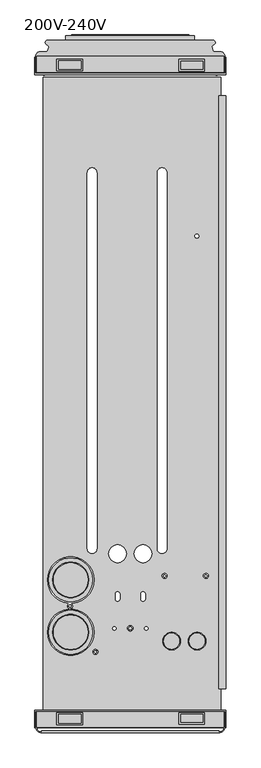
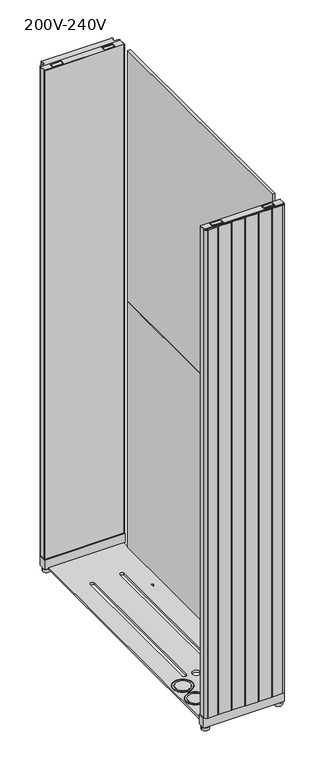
"""IFC4 building model written with IfcOpenShell, lengths in millimetres: proxy geometry, BIM_Model_for_ACRC301H-AC-Close_Coupled-Schneider_Electric-Chilled_Water-InRow_RC_301H-(208-230)V : 200V-240V."""

from ifc_helpers import new_model, si_unit, point, frame, frame_2d, origin, place, context, project, spatial, polyline, circle_curve, trimmed, segment, composite_curve, outline, extrude, source, transform, mapped, element, save


def proxy_200v_240v_be027739(model_context):
    return source(origin(), model_context, "Body", "SweptSolid", [
        extrude(outline(polyline([(142.2494993, 481.2304637), (142.2494993, -536.3846566), (-136.6898813, -536.3846566), (-136.6898813, 481.2304637), (142.2494993, 481.2304637)]), holes=[composite_curve([segment(trimmed(circle_curve(frame_2d((-93.7, -389.1530054)), 36.5), [point((-130.2, -389.1530054))], [point((-57.2, -389.1530054))], True, "CARTESIAN"), True, "CONTINUOUS"), segment(trimmed(circle_curve(frame_2d((-93.7, -389.1530054)), 36.5), [point((-57.2, -389.1530054))], [point((-130.2, -389.1530054))], True, "CARTESIAN"), True, "CONTINUOUS")], self_intersect=False), composite_curve([segment(trimmed(circle_curve(frame_2d((65.0, -403.1560054)), 13.8811), [point((51.1189, -403.1560054))], [point((78.8811, -403.1560054))], True, "CARTESIAN"), True, "CONTINUOUS"), segment(trimmed(circle_curve(frame_2d((65.0, -403.1560054)), 13.8811), [point((78.8811, -403.1560054))], [point((51.1189, -403.1560054))], True, "CARTESIAN"), True, "CONTINUOUS")], self_intersect=False), composite_curve([segment(trimmed(circle_curve(frame_2d((105.0, -403.1560054)), 13.8811), [point((91.1189, -403.1560054))], [point((118.8811, -403.1560054))], True, "CARTESIAN"), True, "CONTINUOUS"), segment(trimmed(circle_curve(frame_2d((105.0, -403.1560054)), 13.8811), [point((118.8811, -403.1560054))], [point((91.1189, -403.1560054))], True, "CARTESIAN"), True, "CONTINUOUS")], self_intersect=False), composite_curve([segment(trimmed(circle_curve(frame_2d((-93.7, -307.1530054)), 36.5), [point((-130.2, -307.1530054))], [point((-57.2, -307.1530054))], True, "CARTESIAN"), True, "CONTINUOUS"), segment(trimmed(circle_curve(frame_2d((-93.7, -307.1530054)), 36.5), [point((-57.2, -307.1530054))], [point((-130.2, -307.1530054))], True, "CARTESIAN"), True, "CONTINUOUS")], self_intersect=False), composite_curve([segment(polyline([(-23.5, -329.1560054), (-23.5, -337.1560054)]), True, "CONTINUOUS"), segment(trimmed(circle_curve(frame_2d((-20.0, -337.1560054)), 3.5), [point((-23.5, -337.1560054))], [point((-16.5, -337.1560054))], True, "CARTESIAN"), True, "CONTINUOUS"), segment(polyline([(-16.5, -337.1560054), (-16.5, -329.1560054)]), True, "CONTINUOUS"), segment(trimmed(circle_curve(frame_2d((-20.0, -329.1560054)), 3.5), [point((-16.5, -329.1560054))], [point((-23.5, -329.1560054))], True, "CARTESIAN"), True, "CONTINUOUS")], self_intersect=False), composite_curve([segment(polyline([(16.5, -329.1560054), (16.5, -337.1560054)]), True, "CONTINUOUS"), segment(trimmed(circle_curve(frame_2d((20.0, -337.1560054)), 3.5), [point((16.5, -337.1560054))], [point((23.5, -337.1560054))], True, "CARTESIAN"), True, "CONTINUOUS"), segment(polyline([(23.5, -337.1560054), (23.5, -329.1560054)]), True, "CONTINUOUS"), segment(trimmed(circle_curve(frame_2d((20.0, -329.1560054)), 3.5), [point((23.5, -329.1560054))], [point((16.5, -329.1560054))], True, "CARTESIAN"), True, "CONTINUOUS")], self_intersect=False), composite_curve([segment(polyline([(42.4501656, 331.8439946), (42.4501656, -258.1560054)]), True, "CONTINUOUS"), segment(trimmed(circle_curve(frame_2d((50.0, -258.1560054)), 7.5498344), [point((42.4501656, -258.1560054))], [point((57.5498344, -258.1560054))], True, "CARTESIAN"), True, "CONTINUOUS"), segment(polyline([(57.5498344, -258.1560054), (57.5498344, 331.8439946)]), True, "CONTINUOUS"), segment(trimmed(circle_curve(frame_2d((50.0, 331.8439946)), 7.5498344), [point((57.5498344, 331.8439946))], [point((42.4501656, 331.8439946))], True, "CARTESIAN"), True, "CONTINUOUS")], self_intersect=False), composite_curve([segment(trimmed(circle_curve(frame_2d((-60.0, -258.1560054)), 7.5498344), [point((-67.5498344, -258.1560054))], [point((-52.4501656, -258.1560054))], True, "CARTESIAN"), True, "CONTINUOUS"), segment(polyline([(-52.4501656, -258.1560054), (-52.4501656, 331.8439946)]), True, "CONTINUOUS"), segment(trimmed(circle_curve(frame_2d((-60.0, 331.8439946)), 7.5498344), [point((-52.4501656, 331.8439946))], [point((-67.5498344, 331.8439946))], True, "CARTESIAN"), True, "CONTINUOUS"), segment(polyline([(-67.5498344, 331.8439946), (-67.5498344, -258.1560054)]), True, "CONTINUOUS")], self_intersect=False), composite_curve([segment(trimmed(circle_curve(frame_2d((-20.0, -266.1560054)), 13.9), [point((-33.9, -266.1560054))], [point((-6.1, -266.1560054))], True, "CARTESIAN"), True, "CONTINUOUS"), segment(trimmed(circle_curve(frame_2d((-20.0, -266.1560054)), 13.9), [point((-6.1, -266.1560054))], [point((-33.9, -266.1560054))], True, "CARTESIAN"), True, "CONTINUOUS")], self_intersect=False), composite_curve([segment(trimmed(circle_curve(frame_2d((20.0, -266.1560054)), 13.9), [point((6.1, -266.1560054))], [point((33.9, -266.1560054))], True, "CARTESIAN"), True, "CONTINUOUS"), segment(trimmed(circle_curve(frame_2d((20.0, -266.1560054)), 13.9), [point((33.9, -266.1560054))], [point((6.1, -266.1560054))], True, "CARTESIAN"), True, "CONTINUOUS")], self_intersect=False), composite_curve([segment(trimmed(circle_curve(frame_2d((0.0, -383.1560054)), 4.35), [point((-4.35, -383.1560054))], [point((4.35, -383.1560054))], True, "CARTESIAN"), True, "CONTINUOUS"), segment(trimmed(circle_curve(frame_2d((0.0, -383.1560054)), 4.35), [point((4.35, -383.1560054))], [point((-4.35, -383.1560054))], True, "CARTESIAN"), True, "CONTINUOUS")], self_intersect=False), composite_curve([segment(trimmed(circle_curve(frame_2d((25.0, -383.1560054)), 2.664701), [point((22.335299, -383.1560054))], [point((27.664701, -383.1560054))], True, "CARTESIAN"), True, "CONTINUOUS"), segment(trimmed(circle_curve(frame_2d((25.0, -383.1560054)), 2.664701), [point((27.664701, -383.1560054))], [point((22.335299, -383.1560054))], True, "CARTESIAN"), True, "CONTINUOUS")], self_intersect=False), composite_curve([segment(trimmed(circle_curve(frame_2d((-25.0, -383.1560054)), 2.664701), [point((-27.664701, -383.1560054))], [point((-22.335299, -383.1560054))], True, "CARTESIAN"), True, "CONTINUOUS"), segment(trimmed(circle_curve(frame_2d((-25.0, -383.1560054)), 2.664701), [point((-22.335299, -383.1560054))], [point((-27.664701, -383.1560054))], True, "CARTESIAN"), True, "CONTINUOUS")], self_intersect=False), composite_curve([segment(trimmed(circle_curve(frame_2d((-54.7, -420.1530054)), 3.95), [point((-58.65, -420.1530054))], [point((-50.75, -420.1530054))], True, "CARTESIAN"), True, "CONTINUOUS"), segment(trimmed(circle_curve(frame_2d((-54.7, -420.1530054)), 3.95), [point((-50.75, -420.1530054))], [point((-58.65, -420.1530054))], True, "CARTESIAN"), True, "CONTINUOUS")], self_intersect=False), composite_curve([segment(trimmed(circle_curve(frame_2d((118.82, -300.9660054)), 3.95), [point((114.87, -300.9660054))], [point((122.77, -300.9660054))], True, "CARTESIAN"), True, "CONTINUOUS"), segment(trimmed(circle_curve(frame_2d((118.82, -300.9660054)), 3.95), [point((122.77, -300.9660054))], [point((114.87, -300.9660054))], True, "CARTESIAN"), True, "CONTINUOUS")], self_intersect=False), composite_curve([segment(trimmed(circle_curve(frame_2d((53.82, -300.9660054)), 3.95), [point((49.87, -300.9660054))], [point((57.77, -300.9660054))], True, "CARTESIAN"), True, "CONTINUOUS"), segment(trimmed(circle_curve(frame_2d((53.82, -300.9660054)), 3.95), [point((57.77, -300.9660054))], [point((49.87, -300.9660054))], True, "CARTESIAN"), True, "CONTINUOUS")], self_intersect=False), composite_curve([segment(trimmed(circle_curve(frame_2d((104.6730485, 232.1853709)), 3.0), [point((101.6730485, 232.1853709))], [point((107.6730485, 232.1853709))], True, "CARTESIAN"), True, "CONTINUOUS"), segment(trimmed(circle_curve(frame_2d((104.6730485, 232.1853709)), 3.0), [point((107.6730485, 232.1853709))], [point((101.6730485, 232.1853709))], True, "CARTESIAN"), True, "CONTINUOUS")], self_intersect=False), composite_curve([segment(trimmed(circle_curve(frame_2d((-94.7, -348.1530054)), 3.95), [point((-98.65, -348.1530054))], [point((-90.75, -348.1530054))], True, "CARTESIAN"), True, "CONTINUOUS"), segment(trimmed(circle_curve(frame_2d((-94.7, -348.1530054)), 3.95), [point((-90.75, -348.1530054))], [point((-98.65, -348.1530054))], True, "CARTESIAN"), True, "CONTINUOUS")], self_intersect=False)]), frame((0.0, 0.0, 35.0), z_axis=(0.0, 0.0, 1.0), x_axis=(1.0, 0.0, 0.0)), (0.0, 0.0, 1.0), 7.0),
        extrude(outline(composite_curve([segment(trimmed(circle_curve(frame_2d((-93.7, -389.1530054)), 34.5), [point((-128.2, -389.1530054))], [point((-59.2, -389.1530054))], False, "CARTESIAN"), True, "CONTINUOUS"), segment(trimmed(circle_curve(frame_2d((-93.7, -389.1530054)), 34.5), [point((-59.2, -389.1530054))], [point((-128.2, -389.1530054))], False, "CARTESIAN"), True, "CONTINUOUS")], self_intersect=False), holes=[composite_curve([segment(trimmed(circle_curve(frame_2d((-93.7, -389.1530054)), 28.0), [point((-121.7, -389.1530054))], [point((-65.7, -389.1530054))], True, "CARTESIAN"), True, "CONTINUOUS"), segment(trimmed(circle_curve(frame_2d((-93.7, -389.1530054)), 28.0), [point((-65.7, -389.1530054))], [point((-121.7, -389.1530054))], True, "CARTESIAN"), True, "CONTINUOUS")], self_intersect=False)]), frame((0.0, 0.0, 35.0), z_axis=(0.0, 0.0, 1.0), x_axis=(1.0, 0.0, 0.0)), (0.0, 0.0, 1.0), 7.0),
        extrude(outline(composite_curve([segment(trimmed(circle_curve(frame_2d((-93.7, -389.1530054)), 27.0), [point((-120.7, -389.1530054))], [point((-66.7, -389.1530054))], False, "CARTESIAN"), True, "CONTINUOUS"), segment(trimmed(circle_curve(frame_2d((-93.7, -389.1530054)), 27.0), [point((-66.7, -389.1530054))], [point((-120.7, -389.1530054))], False, "CARTESIAN"), True, "CONTINUOUS")], self_intersect=False)), frame((0.0, 0.0, 35.0), z_axis=(0.0, 0.0, 1.0), x_axis=(1.0, 0.0, 0.0)), (0.0, 0.0, 1.0), 7.0),
        extrude(outline(composite_curve([segment(trimmed(circle_curve(frame_2d((65.0, -403.1560054)), 12.6111), [point((52.3889, -403.1560054))], [point((77.6111, -403.1560054))], False, "CARTESIAN"), True, "CONTINUOUS"), segment(trimmed(circle_curve(frame_2d((65.0, -403.1560054)), 12.6111), [point((77.6111, -403.1560054))], [point((52.3889, -403.1560054))], False, "CARTESIAN"), True, "CONTINUOUS")], self_intersect=False)), frame((0.0, 0.0, 35.0), z_axis=(0.0, 0.0, 1.0), x_axis=(1.0, 0.0, 0.0)), (0.0, 0.0, 1.0), 7.0),
        extrude(outline(composite_curve([segment(trimmed(circle_curve(frame_2d((105.0, -403.1560054)), 12.6111), [point((92.3889, -403.1560054))], [point((117.6111, -403.1560054))], False, "CARTESIAN"), True, "CONTINUOUS"), segment(trimmed(circle_curve(frame_2d((105.0, -403.1560054)), 12.6111), [point((117.6111, -403.1560054))], [point((92.3889, -403.1560054))], False, "CARTESIAN"), True, "CONTINUOUS")], self_intersect=False)), frame((0.0, 0.0, 35.0), z_axis=(0.0, 0.0, 1.0), x_axis=(1.0, 0.0, 0.0)), (0.0, 0.0, 1.0), 7.0),
        extrude(outline(composite_curve([segment(trimmed(circle_curve(frame_2d((-93.7, -307.1530054)), 34.5), [point((-128.2, -307.1530054))], [point((-59.2, -307.1530054))], False, "CARTESIAN"), True, "CONTINUOUS"), segment(trimmed(circle_curve(frame_2d((-93.7, -307.1530054)), 34.5), [point((-59.2, -307.1530054))], [point((-128.2, -307.1530054))], False, "CARTESIAN"), True, "CONTINUOUS")], self_intersect=False), holes=[composite_curve([segment(trimmed(circle_curve(frame_2d((-93.7, -307.1530054)), 28.0), [point((-121.7, -307.1530054))], [point((-65.7, -307.1530054))], True, "CARTESIAN"), True, "CONTINUOUS"), segment(trimmed(circle_curve(frame_2d((-93.7, -307.1530054)), 28.0), [point((-65.7, -307.1530054))], [point((-121.7, -307.1530054))], True, "CARTESIAN"), True, "CONTINUOUS")], self_intersect=False)]), frame((0.0, 0.0, 35.0), z_axis=(0.0, 0.0, 1.0), x_axis=(1.0, 0.0, 0.0)), (0.0, 0.0, 1.0), 7.0),
        extrude(outline(composite_curve([segment(trimmed(circle_curve(frame_2d((-93.7, -307.1530054)), 27.0), [point((-120.7, -307.1530054))], [point((-66.7, -307.1530054))], False, "CARTESIAN"), True, "CONTINUOUS"), segment(trimmed(circle_curve(frame_2d((-93.7, -307.1530054)), 27.0), [point((-66.7, -307.1530054))], [point((-120.7, -307.1530054))], False, "CARTESIAN"), True, "CONTINUOUS")], self_intersect=False)), frame((0.0, 0.0, 35.0), z_axis=(0.0, 0.0, 1.0), x_axis=(1.0, 0.0, 0.0)), (0.0, 0.0, 1.0), 7.0),
        extrude(outline(composite_curve([segment(trimmed(circle_curve(frame_2d((0.0, -383.1560054)), 2.5), [point((-2.5, -383.1560054))], [point((2.5, -383.1560054))], False, "CARTESIAN"), True, "CONTINUOUS"), segment(trimmed(circle_curve(frame_2d((0.0, -383.1560054)), 2.5), [point((2.5, -383.1560054))], [point((-2.5, -383.1560054))], False, "CARTESIAN"), True, "CONTINUOUS")], self_intersect=False)), frame((0.0, 0.0, 35.0), z_axis=(0.0, 0.0, 1.0), x_axis=(1.0, 0.0, 0.0)), (0.0, 0.0, 1.0), 7.0),
        extrude(outline(composite_curve([segment(trimmed(circle_curve(frame_2d((-54.7, -420.1530054)), 2.0), [point((-56.7, -420.1530054))], [point((-52.7, -420.1530054))], False, "CARTESIAN"), True, "CONTINUOUS"), segment(trimmed(circle_curve(frame_2d((-54.7, -420.1530054)), 2.0), [point((-52.7, -420.1530054))], [point((-56.7, -420.1530054))], False, "CARTESIAN"), True, "CONTINUOUS")], self_intersect=False)), frame((0.0, 0.0, 35.0), z_axis=(0.0, 0.0, 1.0), x_axis=(1.0, 0.0, 0.0)), (0.0, 0.0, 1.0), 7.0),
        extrude(outline(composite_curve([segment(trimmed(circle_curve(frame_2d((118.82, -300.9660054)), 2.0), [point((116.82, -300.9660054))], [point((120.82, -300.9660054))], False, "CARTESIAN"), True, "CONTINUOUS"), segment(trimmed(circle_curve(frame_2d((118.82, -300.9660054)), 2.0), [point((120.82, -300.9660054))], [point((116.82, -300.9660054))], False, "CARTESIAN"), True, "CONTINUOUS")], self_intersect=False)), frame((0.0, 0.0, 35.0), z_axis=(0.0, 0.0, 1.0), x_axis=(1.0, 0.0, 0.0)), (0.0, 0.0, 1.0), 7.0),
        extrude(outline(composite_curve([segment(trimmed(circle_curve(frame_2d((53.82, -300.9660054)), 2.0), [point((51.82, -300.9660054))], [point((55.82, -300.9660054))], False, "CARTESIAN"), True, "CONTINUOUS"), segment(trimmed(circle_curve(frame_2d((53.82, -300.9660054)), 2.0), [point((55.82, -300.9660054))], [point((51.82, -300.9660054))], False, "CARTESIAN"), True, "CONTINUOUS")], self_intersect=False)), frame((0.0, 0.0, 35.0), z_axis=(0.0, 0.0, 1.0), x_axis=(1.0, 0.0, 0.0)), (0.0, 0.0, 1.0), 7.0),
        extrude(outline(composite_curve([segment(trimmed(circle_curve(frame_2d((-94.7, -348.1530054)), 2.0), [point((-96.7, -348.1530054))], [point((-92.7, -348.1530054))], False, "CARTESIAN"), True, "CONTINUOUS"), segment(trimmed(circle_curve(frame_2d((-94.7, -348.1530054)), 2.0), [point((-92.7, -348.1530054))], [point((-96.7, -348.1530054))], False, "CARTESIAN"), True, "CONTINUOUS")], self_intersect=False)), frame((0.0, 0.0, 35.0), z_axis=(0.0, 0.0, 1.0), x_axis=(1.0, 0.0, 0.0)), (0.0, 0.0, 1.0), 7.0),
        extrude(outline(polyline([(92.0038609, 545.8500182), (-92.0036993, 545.8500182), (-92.0036993, 547.4999946), (92.0038609, 547.4999946), (92.0038609, 545.8500182)])), frame((0.0, 0.0, 1609.1384634), z_axis=(0.0, 0.0, 1.0), x_axis=(1.0, 0.0, 0.0)), (0.0, 0.0, 1.0), 84.0986283),
        extrude(outline(polyline([(100.6960411, 537.2923638), (-101.4999738, 537.2923638), (-101.4999738, 545.8500182), (100.6960411, 545.8500182), (100.6960411, 537.2923638)])), frame((0.0, 0.0, 1595.0), z_axis=(0.0, 0.0, 1.0), x_axis=(1.0, 0.0, 0.0)), (0.0, 0.0, 1.0), 111.0),
        extrude(outline(polyline([(-150.0, -511.6535774), (150.0, -511.6535774), (150.0, -538.7500054), (-150.0, -538.7500054), (-150.0, -511.6535774)])), frame((0.0, 0.0, 36.1092195), z_axis=(0.0, 0.0, 1.0), x_axis=(1.0, 0.0, 0.0)), (0.0, 0.0, 1.0), 37.8907805),
        extrude(outline(composite_curve([segment(trimmed(circle_curve(frame_2d((135.9887149, -524.0986273)), 5.0), [point((140.9887149, -524.0986273))], [point((130.9887149, -524.0986273))], False, "CARTESIAN"), True, "CONTINUOUS"), segment(trimmed(circle_curve(frame_2d((135.9887149, -524.0986273)), 5.0), [point((130.9887149, -524.0986273))], [point((140.9887149, -524.0986273))], False, "CARTESIAN"), True, "CONTINUOUS")], self_intersect=False)), frame((0.0, 0.0, 32.1019422), z_axis=(0.0, 0.0, 1.0), x_axis=(1.0, 0.0, 0.0)), (0.0, 0.0, 1.0), 10.4776725),
        extrude(outline(composite_curve([segment(trimmed(circle_curve(frame_2d((135.7422715, -524.7977296)), 13.7438765), [point((149.4861481, -524.7977296))], [point((121.998395, -524.7977296))], False, "CARTESIAN"), True, "CONTINUOUS"), segment(trimmed(circle_curve(frame_2d((135.7422715, -524.7977296)), 13.7438765), [point((121.998395, -524.7977296))], [point((149.4861481, -524.7977296))], False, "CARTESIAN"), True, "CONTINUOUS")], self_intersect=False)), frame((0.0, 0.0, 21.4769368), z_axis=(0.0, 0.0, 1.0), x_axis=(1.0, 0.0, 0.0)), (0.0, 0.0, 1.0), 11.9250061),
        extrude(outline(composite_curve([segment(trimmed(circle_curve(frame_2d((-135.9887149, -524.0986273)), 5.0), [point((-140.9887149, -524.0986273))], [point((-130.9887149, -524.0986273))], False, "CARTESIAN"), True, "CONTINUOUS"), segment(trimmed(circle_curve(frame_2d((-135.9887149, -524.0986273)), 5.0), [point((-130.9887149, -524.0986273))], [point((-140.9887149, -524.0986273))], False, "CARTESIAN"), True, "CONTINUOUS")], self_intersect=False)), frame((0.0, 0.0, 32.1019422), z_axis=(0.0, 0.0, 1.0), x_axis=(1.0, 0.0, 0.0)), (0.0, 0.0, 1.0), 10.4776725),
        extrude(outline(composite_curve([segment(trimmed(circle_curve(frame_2d((-135.7422715, -524.7977296)), 13.7438765), [point((-149.4861481, -524.7977296))], [point((-121.998395, -524.7977296))], False, "CARTESIAN"), True, "CONTINUOUS"), segment(trimmed(circle_curve(frame_2d((-135.7422715, -524.7977296)), 13.7438765), [point((-121.998395, -524.7977296))], [point((-149.4861481, -524.7977296))], False, "CARTESIAN"), True, "CONTINUOUS")], self_intersect=False)), frame((0.0, 0.0, 21.4769368), z_axis=(0.0, 0.0, 1.0), x_axis=(1.0, 0.0, 0.0)), (0.0, 0.0, 1.0), 11.9250061),
        extrude(outline(composite_curve([segment(trimmed(circle_curve(frame_2d((135.9887149, 497.8486165)), 5.0), [point((140.9887149, 497.8486165))], [point((130.9887149, 497.8486165))], False, "CARTESIAN"), True, "CONTINUOUS"), segment(trimmed(circle_curve(frame_2d((135.9887149, 497.8486165)), 5.0), [point((130.9887149, 497.8486165))], [point((140.9887149, 497.8486165))], False, "CARTESIAN"), True, "CONTINUOUS")], self_intersect=False)), frame((0.0, 0.0, 32.1019422), z_axis=(0.0, 0.0, 1.0), x_axis=(1.0, 0.0, 0.0)), (0.0, 0.0, 1.0), 10.4776725),
        extrude(outline(composite_curve([segment(trimmed(circle_curve(frame_2d((135.7422715, 498.5477187)), 13.7438765), [point((149.4861481, 498.5477187))], [point((121.998395, 498.5477187))], False, "CARTESIAN"), True, "CONTINUOUS"), segment(trimmed(circle_curve(frame_2d((135.7422715, 498.5477187)), 13.7438765), [point((121.998395, 498.5477187))], [point((149.4861481, 498.5477187))], False, "CARTESIAN"), True, "CONTINUOUS")], self_intersect=False)), frame((0.0, 0.0, 21.4769368), z_axis=(0.0, 0.0, 1.0), x_axis=(1.0, 0.0, 0.0)), (0.0, 0.0, 1.0), 11.9250061),
        extrude(outline(composite_curve([segment(trimmed(circle_curve(frame_2d((-135.9887149, 497.8486165)), 5.0), [point((-140.9887149, 497.8486165))], [point((-130.9887149, 497.8486165))], False, "CARTESIAN"), True, "CONTINUOUS"), segment(trimmed(circle_curve(frame_2d((-135.9887149, 497.8486165)), 5.0), [point((-130.9887149, 497.8486165))], [point((-140.9887149, 497.8486165))], False, "CARTESIAN"), True, "CONTINUOUS")], self_intersect=False)), frame((0.0, 0.0, 32.1019422), z_axis=(0.0, 0.0, 1.0), x_axis=(1.0, 0.0, 0.0)), (0.0, 0.0, 1.0), 10.4776725),
        extrude(outline(composite_curve([segment(trimmed(circle_curve(frame_2d((-135.7422715, 498.5477187)), 13.7438765), [point((-149.4861481, 498.5477187))], [point((-121.998395, 498.5477187))], False, "CARTESIAN"), True, "CONTINUOUS"), segment(trimmed(circle_curve(frame_2d((-135.7422715, 498.5477187)), 13.7438765), [point((-121.998395, 498.5477187))], [point((-149.4861481, 498.5477187))], False, "CARTESIAN"), True, "CONTINUOUS")], self_intersect=False)), frame((0.0, 0.0, 21.4769368), z_axis=(0.0, 0.0, 1.0), x_axis=(1.0, 0.0, 0.0)), (0.0, 0.0, 1.0), 11.9250061),
        extrude(outline(polyline([(-150.0, 485.4035665), (-150.0, 512.4999946), (150.0, 512.4999946), (150.0, 485.4035665), (-150.0, 485.4035665)])), frame((0.0, 0.0, 36.1092195), z_axis=(0.0, 0.0, 1.0), x_axis=(1.0, 0.0, 0.0)), (0.0, 0.0, 1.0), 37.8907805),
        extrude(outline(polyline([(147.270335, 489.2696386), (-147.0859984, 489.2696386), (-147.0859984, 513.7425298), (147.270335, 513.7425298), (147.270335, 489.2696386)]), holes=[polyline([(-115.7902992, 491.0520969), (-74.7110402, 491.0520969), (-74.7110402, 509.417152), (-115.7902992, 509.417152), (-115.7902992, 491.0520969)]), polyline([(76.6606041, 490.81064), (116.6606041, 490.81064), (116.6606041, 509.2856674), (76.6606041, 509.2856674), (76.6606041, 490.81064)])]), frame((0.0, 0.0, 1980.0), z_axis=(0.0, 0.0, 1.0), x_axis=(1.0, 0.0, 0.0)), (0.0, 0.0, 1.0), 11.0),
        extrude(outline(polyline([(114.3251427, 505.8773154), (114.3251427, 493.6228028), (79.2440917, 493.6228028), (79.2440917, 505.8773154), (114.3251427, 505.8773154)])), frame((0.0, 0.0, 1980.0), z_axis=(0.0, 0.0, 1.0), x_axis=(1.0, 0.0, 0.0)), (0.0, 0.0, 1.0), 11.0),
        extrude(outline(polyline([(-77.1999607, 507.2949543), (-77.1999607, 493.6228028), (-112.7561656, 493.6228028), (-112.7561656, 507.2949543), (-77.1999607, 507.2949543)])), frame((0.0, 0.0, 1980.0), z_axis=(0.0, 0.0, 1.0), x_axis=(1.0, 0.0, 0.0)), (0.0, 0.0, 1.0), 11.0),
        extrude(outline(composite_curve([segment(polyline([(-141.8999956, 521.0599003), (-130.5631337, 521.0599003), (-127.8403606, 528.5406579)]), True, "CONTINUOUS"), segment(trimmed(circle_curve(frame_2d((-128.5444726, 528.7969337)), 0.7493004), [point((-127.8403606, 528.5406579))], [point((-128.0628316, 529.3709311))], True, "CARTESIAN"), True, "CONTINUOUS"), segment(polyline([(-128.0628316, 529.3709311), (-132.2084942, 532.8495551)]), True, "CONTINUOUS"), segment(trimmed(circle_curve(frame_2d((-129.9465748, 535.5452056)), 3.5189219), [point((-132.2084942, 532.8495551))], [point((-129.7181673, 539.0567069))], False, "CARTESIAN"), True, "CONTINUOUS"), segment(trimmed(circle_curve(frame_2d((8.1e-05, 2533.3245216)), 1998.4821592), [point((-129.7181673, 539.0567069))], [point((129.7183293, 539.0567069))], True, "CARTESIAN"), True, "CONTINUOUS"), segment(trimmed(circle_curve(frame_2d((129.9467368, 535.5452056)), 3.5189219), [point((129.7183293, 539.0567069))], [point((132.2086562, 532.8495551))], False, "CARTESIAN"), True, "CONTINUOUS"), segment(polyline([(132.2086562, 532.8495551), (128.0629936, 529.3709311)]), True, "CONTINUOUS"), segment(trimmed(circle_curve(frame_2d((128.5446346, 528.7969337)), 0.7493004), [point((128.0629936, 529.3709311))], [point((127.8405226, 528.5406579))], True, "CARTESIAN"), True, "CONTINUOUS"), segment(polyline([(127.8405226, 528.5406579), (130.5632957, 521.0599003), (141.9001576, 521.0599003)]), True, "CONTINUOUS"), segment(trimmed(circle_curve(frame_2d((141.9001576, 514.5409768)), 6.5189235), [point((141.9001576, 521.0599003))], [point((148.4190811, 514.5409768))], False, "CARTESIAN"), True, "CONTINUOUS"), segment(polyline([(148.4190811, 514.5409768), (148.4190811, 490.840964), (148.4190811, 487.8409623), (146.9001603, 487.8409623), (-146.8999983, 487.8409623), (-148.4189191, 487.8409623), (-148.4189191, 490.840964), (-148.4189191, 514.5409768)]), True, "CONTINUOUS"), segment(trimmed(circle_curve(frame_2d((-141.8999956, 514.5409768)), 6.5189235), [point((-148.4189191, 514.5409768))], [point((-141.8999956, 521.0599003))], False, "CARTESIAN"), True, "CONTINUOUS")], self_intersect=False)), frame((0.0, 0.0, 75.0), z_axis=(0.0, 0.0, 1.0), x_axis=(1.0, 0.0, 0.0)), (0.0, 0.0, 1.0), 1916.0),
        extrude(outline(polyline([(150.0, -478.2173791), (139.4999943, -478.2173791), (139.4999943, 451.7831231), (150.0, 451.7831231), (150.0, -478.2173791)])), frame((0.0, 0.0, 1010.4768757), z_axis=(0.0, 0.0, 1.0), x_axis=(1.0, 0.0, 0.0)), (0.0, 0.0, 1.0), 980.5231243),
        extrude(outline(polyline([(150.0, -478.2173791), (139.4999943, -478.2173791), (139.4999943, 451.7831231), (150.0, 451.7831231), (150.0, -478.2173791)])), frame((0.0, 0.0, 36.1092195), z_axis=(0.0, 0.0, 1.0), x_axis=(1.0, 0.0, 0.0)), (0.0, 0.0, 1.0), 969.5914039),
        extrude(outline(polyline([(147.270335, -514.2696495), (147.270335, -538.7425407), (-147.0859984, -538.7425407), (-147.0859984, -514.2696495), (147.270335, -514.2696495)]), holes=[polyline([(-115.7902992, -516.0521078), (-115.7902992, -534.4171629), (-74.7110402, -534.4171629), (-74.7110402, -516.0521078), (-115.7902992, -516.0521078)]), polyline([(76.6606041, -515.8106508), (76.6606041, -534.2856783), (116.6606041, -534.2856783), (116.6606041, -515.8106508), (76.6606041, -515.8106508)])]), frame((0.0, 0.0, 1980.0), z_axis=(0.0, 0.0, 1.0), x_axis=(1.0, 0.0, 0.0)), (0.0, 0.0, 1.0), 11.0),
        extrude(outline(polyline([(114.3251427, -530.8773263), (79.2440917, -530.8773263), (79.2440917, -518.6228137), (114.3251427, -518.6228137), (114.3251427, -530.8773263)])), frame((0.0, 0.0, 1980.0), z_axis=(0.0, 0.0, 1.0), x_axis=(1.0, 0.0, 0.0)), (0.0, 0.0, 1.0), 11.0),
        extrude(outline(polyline([(-77.1999607, -532.2949651), (-112.7561656, -532.2949651), (-112.7561656, -518.6228137), (-77.1999607, -518.6228137), (-77.1999607, -532.2949651)])), frame((0.0, 0.0, 1980.0), z_axis=(0.0, 0.0, 1.0), x_axis=(1.0, 0.0, 0.0)), (0.0, 0.0, 1.0), 11.0),
        extrude(outline(composite_curve([segment(trimmed(circle_curve(frame_2d((139.2861562, -538.2395917)), 8.0000043), [point((139.2861562, -546.2395961))], [point((147.2861605, -538.2395917))], True, "CARTESIAN"), True, "CONTINUOUS"), segment(polyline([(147.2861605, -538.2395917), (147.2861605, -516.6535801), (147.2861605, -514.1535787), (148.5001612, -514.1535787), (148.5001612, -516.6535801), (148.5001612, -538.2395917)]), True, "CONTINUOUS"), segment(trimmed(circle_curve(frame_2d((139.2861562, -538.2395917)), 9.214005), [point((148.5001612, -538.2395917))], [point((139.2861562, -547.4535967))], False, "CARTESIAN"), True, "CONTINUOUS"), segment(polyline([(139.2861562, -547.4535967), (102.5001364, -547.4535967), (97.5001337, -547.4535967), (52.5001094, -547.4535967), (47.5001067, -547.4535967), (2.5000824, -547.4535967), (-2.4999203, -547.4535967), (-47.4999446, -547.4535967), (-52.4999473, -547.4535967), (-97.4999716, -547.4535967), (-102.4999743, -547.4535967), (-139.2859942, -547.4535967)]), True, "CONTINUOUS"), segment(trimmed(circle_curve(frame_2d((-139.2859942, -538.2395917)), 9.214005), [point((-139.2859942, -547.4535967))], [point((-148.4999992, -538.2395917))], False, "CARTESIAN"), True, "CONTINUOUS"), segment(polyline([(-148.4999992, -538.2395917), (-148.4999992, -516.6535801), (-148.4999992, -514.1535787), (-147.2859985, -514.1535787), (-147.2859985, -516.6535801), (-147.2859985, -538.2395917)]), True, "CONTINUOUS"), segment(trimmed(circle_curve(frame_2d((-139.2859942, -538.2395917)), 8.0000043), [point((-147.2859985, -538.2395917))], [point((-139.2859942, -546.2395961))], True, "CARTESIAN"), True, "CONTINUOUS"), segment(polyline([(-139.2859942, -546.2395961), (-139.2859942, -544.1365949), (139.2861562, -544.1365949), (139.2861562, -546.2395961)]), True, "CONTINUOUS")], self_intersect=False)), frame((0.0, 0.0, 76.199346), z_axis=(0.0, 0.0, 1.0), x_axis=(1.0, 0.0, 0.0)), (0.0, 0.0, 1.0), 1914.800654),
    ])


if __name__ == "__main__":
    model = new_model("IFC4")
    model_context = context("Model", 3, world=origin())
    ifc_project = project(units=[si_unit("LENGTHUNIT", "METRE", prefix="MILLI")], contexts=[model_context])
    site = spatial("IfcSite", under=ifc_project)
    building = spatial("IfcBuilding", under=site)
    placement = place(None, origin())
    proxy_200v_240v_shape = proxy_200v_240v_be027739(model_context)
    element("IfcBuildingElementProxy", 1, Name="BIM_Model_for_ACRC301H-AC-Close_Coupled-Schneider_Electric-Chilled_Water-InRow_RC_301H-(208-230)V : 200V-240V", ObjectType="BIM_Model_for_ACRC301H-AC-Close_Coupled-Schneider_Electric-Chilled_Water-InRow_RC_301H-(208-230)V : 200V-240V", at=placement, inside=building, context=model_context, shape_type="MappedRepresentation", body=[
        mapped(proxy_200v_240v_shape, transform((0.0, 0.0, 0.0), x_axis=(1.0, 0.0, 0.0), y_axis=(0.0, 1.0, 0.0), z_axis=(0.0, 0.0, 1.0))),
    ])
    save(model, "model.ifc")
